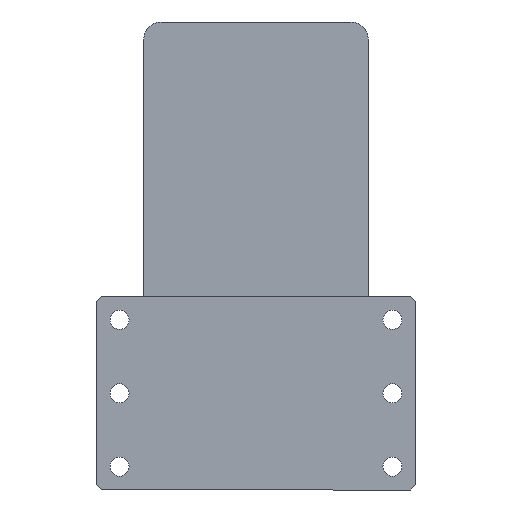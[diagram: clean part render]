
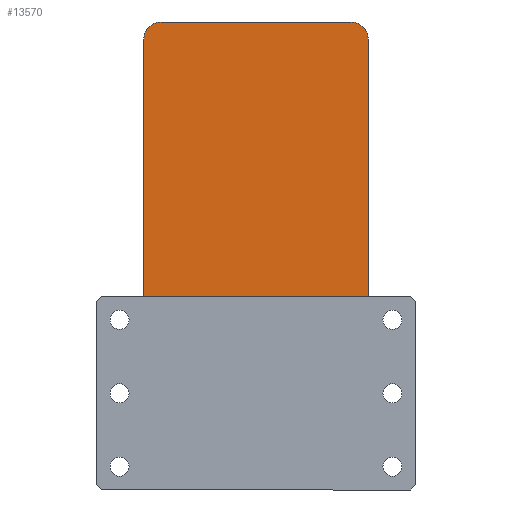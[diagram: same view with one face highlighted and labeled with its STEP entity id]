
A CAD part, left-side view. The second image highlights one B-rep face of the part: STEP entity #13570.
In plain terms, the highlighted planar face has unit normal (-1, 0, 0) as drawn and (0, 0, 1) by its records, which use the part's own axes.
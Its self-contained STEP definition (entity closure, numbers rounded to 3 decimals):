
#1199 = VERTEX_POINT ( 'NONE', #8365 ) ;
#1308 = AXIS2_PLACEMENT_3D ( 'NONE', #14107, #14045, #14042 ) ;
#1559 = CIRCLE ( 'NONE', #1308, 10. ) ;
#1680 = VERTEX_POINT ( 'NONE', #15611 ) ;
#1934 = VERTEX_POINT ( 'NONE', #10548 ) ;
#1950 = DIRECTION ( 'NONE',  ( 0., 1., 0. ) ) ;
#2115 = CARTESIAN_POINT ( 'NONE',  ( 65., 135., 105. ) ) ;
#2504 = ORIENTED_EDGE ( 'NONE', *, *, #13661, .T. ) ;
#3227 = EDGE_LOOP ( 'NONE', ( #20243, #3612, #17716, #16739, #13326, #3294, #2504, #15150 ) ) ;
#3294 = ORIENTED_EDGE ( 'NONE', *, *, #14344, .T. ) ;
#3377 = CARTESIAN_POINT ( 'NONE',  ( -65., 125., 105. ) ) ;
#3612 = ORIENTED_EDGE ( 'NONE', *, *, #14289, .T. ) ;
#3748 = VECTOR ( 'NONE', #17428, 1000. ) ;
#5178 = VECTOR ( 'NONE', #13807, 1000. ) ;
#5325 = VECTOR ( 'NONE', #9953, 1000. ) ;
#5368 = LINE ( 'NONE', #11067, #5325 ) ;
#5977 = CIRCLE ( 'NONE', #18756, 10. ) ;
#6035 = CARTESIAN_POINT ( 'NONE',  ( -55., 135., 105. ) ) ;
#6329 = VERTEX_POINT ( 'NONE', #3377 ) ;
#7345 = LINE ( 'NONE', #13945, #5178 ) ;
#8365 = CARTESIAN_POINT ( 'NONE',  ( 55., 135., 105. ) ) ;
#8668 = EDGE_CURVE ( 'NONE', #1199, #8766, #5368, .T. ) ;
#8766 = VERTEX_POINT ( 'NONE', #6035 ) ;
#9072 = VERTEX_POINT ( 'NONE', #16627 ) ;
#9953 = DIRECTION ( 'NONE',  ( -1., 0., 0. ) ) ;
#10548 = CARTESIAN_POINT ( 'NONE',  ( 65., -125., 105. ) ) ;
#10700 = CIRCLE ( 'NONE', #14231, 10. ) ;
#10770 = FACE_OUTER_BOUND ( 'NONE', #3227, .T. ) ;
#11067 = CARTESIAN_POINT ( 'NONE',  ( -65., 135., 105. ) ) ;
#11224 = CIRCLE ( 'NONE', #18073, 10. ) ;
#11743 = VERTEX_POINT ( 'NONE', #20087 ) ;
#12536 = EDGE_CURVE ( 'NONE', #1934, #11743, #16540, .T. ) ;
#12731 = VERTEX_POINT ( 'NONE', #16104 ) ;
#13326 = ORIENTED_EDGE ( 'NONE', *, *, #8668, .T. ) ;
#13335 = DIRECTION ( 'NONE',  ( 1., 0., 0. ) ) ;
#13374 = DIRECTION ( 'NONE',  ( 0., 0., 1. ) ) ;
#13520 = CARTESIAN_POINT ( 'NONE',  ( 55., 125., 105. ) ) ;
#13570 = ADVANCED_FACE ( 'NONE', ( #10770 ), #16190, .T. ) ;
#13661 = EDGE_CURVE ( 'NONE', #6329, #1680, #7345, .T. ) ;
#13667 = EDGE_CURVE ( 'NONE', #11743, #1199, #5977, .T. ) ;
#13807 = DIRECTION ( 'NONE',  ( 0., -1., 0. ) ) ;
#13945 = CARTESIAN_POINT ( 'NONE',  ( -65., 135., 105. ) ) ;
#14042 = DIRECTION ( 'NONE',  ( 1., 0., 0. ) ) ;
#14045 = DIRECTION ( 'NONE',  ( 0., 0., 1. ) ) ;
#14107 = CARTESIAN_POINT ( 'NONE',  ( -55., -125., 105. ) ) ;
#14200 = EDGE_CURVE ( 'NONE', #9072, #12731, #17761, .T. ) ;
#14231 = AXIS2_PLACEMENT_3D ( 'NONE', #16253, #16209, #16140 ) ;
#14289 = EDGE_CURVE ( 'NONE', #12731, #1934, #10700, .T. ) ;
#14344 = EDGE_CURVE ( 'NONE', #8766, #6329, #11224, .T. ) ;
#14349 = EDGE_CURVE ( 'NONE', #1680, #9072, #1559, .T. ) ;
#15150 = ORIENTED_EDGE ( 'NONE', *, *, #14349, .T. ) ;
#15611 = CARTESIAN_POINT ( 'NONE',  ( -65., -125., 105. ) ) ;
#15938 = AXIS2_PLACEMENT_3D ( 'NONE', #16575, #16234, #15950 ) ;
#15950 = DIRECTION ( 'NONE',  ( 1., 0., 0. ) ) ;
#16104 = CARTESIAN_POINT ( 'NONE',  ( 55., -135., 105. ) ) ;
#16140 = DIRECTION ( 'NONE',  ( 1., 0., 0. ) ) ;
#16190 = PLANE ( 'NONE',  #15938 ) ;
#16209 = DIRECTION ( 'NONE',  ( 0., 0., 1. ) ) ;
#16234 = DIRECTION ( 'NONE',  ( 0., 0., 1. ) ) ;
#16253 = CARTESIAN_POINT ( 'NONE',  ( 55., -125., 105. ) ) ;
#16314 = VECTOR ( 'NONE', #1950, 1000. ) ;
#16540 = LINE ( 'NONE', #2115, #16314 ) ;
#16575 = CARTESIAN_POINT ( 'NONE',  ( 0., 0., 105. ) ) ;
#16627 = CARTESIAN_POINT ( 'NONE',  ( -55., -135., 105. ) ) ;
#16739 = ORIENTED_EDGE ( 'NONE', *, *, #13667, .T. ) ;
#17428 = DIRECTION ( 'NONE',  ( 1., 0., 0. ) ) ;
#17463 = CARTESIAN_POINT ( 'NONE',  ( -65., -135., 105. ) ) ;
#17716 = ORIENTED_EDGE ( 'NONE', *, *, #12536, .T. ) ;
#17761 = LINE ( 'NONE', #17463, #3748 ) ;
#18073 = AXIS2_PLACEMENT_3D ( 'NONE', #19199, #19177, #19166 ) ;
#18756 = AXIS2_PLACEMENT_3D ( 'NONE', #13520, #13374, #13335 ) ;
#19166 = DIRECTION ( 'NONE',  ( 1., 0., 0. ) ) ;
#19177 = DIRECTION ( 'NONE',  ( 0., 0., 1. ) ) ;
#19199 = CARTESIAN_POINT ( 'NONE',  ( -55., 125., 105. ) ) ;
#20087 = CARTESIAN_POINT ( 'NONE',  ( 65., 125., 105. ) ) ;
#20243 = ORIENTED_EDGE ( 'NONE', *, *, #14200, .T. ) ;
